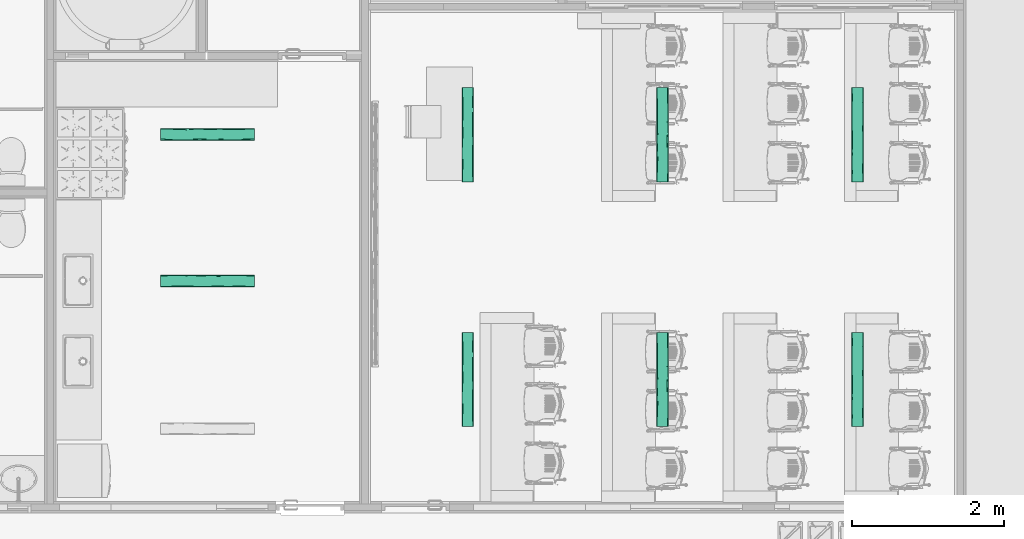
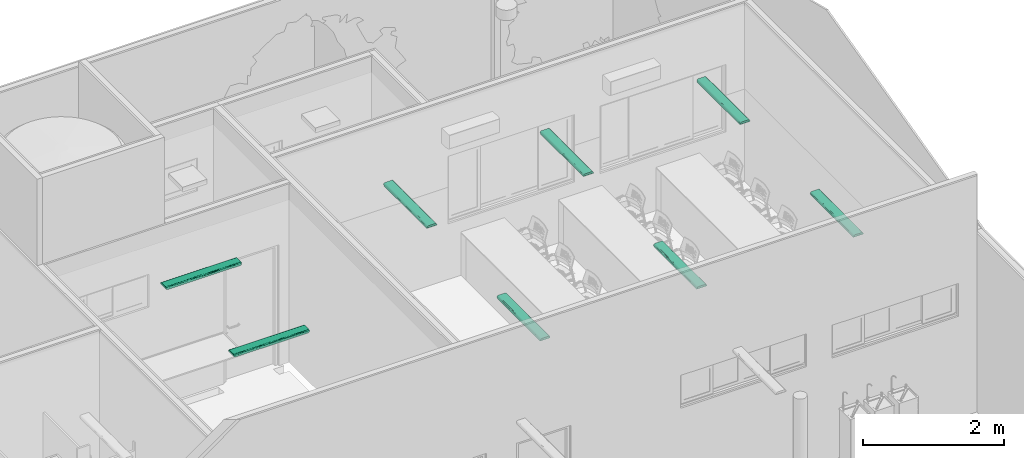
# One storey, part 64 of 155: 8 flow terminals.
"""IFC2X3 building model written with IfcOpenShell, lengths in metres."""

from ifc_helpers import new_model, entity, si_unit, converted_unit, derived_unit, direction, frame, origin, place, context, subcontext, project, spatial, faceted_brep, source, transform, mapped, material, material_list, type_object, type_shapes, element, save


model = new_model("IFC2X3")

# Units and contexts
model_context = context("Model", 3, precision=1e-05, world=origin(), true_north=direction((6.12303176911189e-17, 1.0)))
body_context = subcontext(model_context, "Body", "Model", "MODEL_VIEW")
ifc_project = project(units=[si_unit("LENGTHUNIT", "METRE"), si_unit("AREAUNIT", "SQUARE_METRE"), si_unit("VOLUMEUNIT", "CUBIC_METRE"), converted_unit("PLANEANGLEUNIT", "DEGREE", entity("IfcRatioMeasure", 0.0174532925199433), si_unit("PLANEANGLEUNIT", "RADIAN"), dimensions=[0, 0, 0, 0, 0, 0, 0]), si_unit("MASSUNIT", "GRAM", prefix="KILO"), derived_unit("MASSDENSITYUNIT", [(si_unit("MASSUNIT", "GRAM", prefix="KILO"), 1), (si_unit("LENGTHUNIT", "METRE"), -3)]), si_unit("TIMEUNIT", "SECOND"), si_unit("FREQUENCYUNIT", "HERTZ"), si_unit("THERMODYNAMICTEMPERATUREUNIT", "DEGREE_CELSIUS"), derived_unit("THERMALTRANSMITTANCEUNIT", [(si_unit("MASSUNIT", "GRAM", prefix="KILO"), 1), (si_unit("THERMODYNAMICTEMPERATUREUNIT", "KELVIN"), -1), (si_unit("TIMEUNIT", "SECOND"), -3)]), derived_unit("VOLUMETRICFLOWRATEUNIT", [(si_unit("LENGTHUNIT", "METRE"), 3), (si_unit("TIMEUNIT", "SECOND"), -1)]), si_unit("ELECTRICCURRENTUNIT", "AMPERE"), si_unit("ELECTRICVOLTAGEUNIT", "VOLT"), si_unit("POWERUNIT", "WATT"), si_unit("FORCEUNIT", "NEWTON", prefix="KILO"), si_unit("ILLUMINANCEUNIT", "LUX"), si_unit("LUMINOUSFLUXUNIT", "LUMEN"), si_unit("LUMINOUSINTENSITYUNIT", "CANDELA"), derived_unit("USERDEFINED", [(si_unit("MASSUNIT", "GRAM", prefix="KILO"), -1), (si_unit("LENGTHUNIT", "METRE"), -2), (si_unit("TIMEUNIT", "SECOND"), 3), (si_unit("LUMINOUSFLUXUNIT", "LUMEN"), 1)]), derived_unit("LINEARVELOCITYUNIT", [(si_unit("LENGTHUNIT", "METRE"), 1), (si_unit("TIMEUNIT", "SECOND"), -1)]), si_unit("PRESSUREUNIT", "PASCAL"), derived_unit("USERDEFINED", [(si_unit("LENGTHUNIT", "METRE"), -2), (si_unit("MASSUNIT", "GRAM", prefix="KILO"), 1), (si_unit("TIMEUNIT", "SECOND"), -2)])], contexts=[model_context])

# Site, building, storey, space
site_placement = place(None, frame((26.9889013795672, -17.5624287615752, 0.0)))
site = spatial("IfcSite", under=ifc_project, at=site_placement, Name="Default", CompositionType="ELEMENT")
building_placement = place(site_placement, origin())
building = spatial("IfcBuilding", under=site, at=building_placement, Name="C. C. L. Monsenhor Antônio Sampaio", CompositionType="ELEMENT")
storey_placement = place(building_placement, frame((0.0, 0.0, 1.19999999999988)))
storey = spatial("IfcBuildingStorey", under=building, at=storey_placement, Name="Nível 1.2", CompositionType="ELEMENT", Elevation=1.19999999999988)
space_1_placement = place(storey_placement, origin())
space_1 = spatial("IfcSpace", under=storey, at=space_1_placement, Name="89", CompositionType="ELEMENT", InteriorOrExteriorSpace="INTERNAL")

# Flow terminals
ifc_material_1 = material(Name="glass - blue - t85")
ifc_material_2 = material(Name="metal - aluminium")
ifc_material_list_1 = material_list([ifc_material_1, ifc_material_2])
ifc_material_list_2 = material_list([ifc_material_1, ifc_material_2])
light_fixture_type = type_object("IfcLightFixtureType", Name="BCS460 W16L124 1xLED24/840 MLO-PC", PredefinedType="NOTDEFINED", material=ifc_material_list_2)
shared_shape = source(origin(), body_context, "Body", "Brep", [
    faceted_brep([(0.585000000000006, 0.0435000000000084, -0.0460000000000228), (0.585000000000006, -0.0434999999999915, -0.0460000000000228), (0.585000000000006, -0.0434999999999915, -0.0490000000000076), (0.585000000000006, 0.0435000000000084, -0.0490000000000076), (-0.584999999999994, 0.0435000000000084, -0.0460000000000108), (-0.584999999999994, 0.0435000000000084, -0.0489999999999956), (-0.584999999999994, -0.0434999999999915, -0.0489999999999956), (-0.584999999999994, -0.0434999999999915, -0.0460000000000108)], [[[0, 1, 2, 3]], [[4, 5, 6, 7]], [[3, 5, 4, 0]], [[2, 6, 5, 3]], [[1, 7, 6, 2]], [[0, 4, 7, 1]]]),
    faceted_brep([(-0.584999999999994, -0.0434999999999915, -0.0489999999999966), (0.585000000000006, -0.0434999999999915, -0.0490000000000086), (0.585000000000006, -0.0554999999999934, -0.0490000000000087), (0.417543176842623, -0.0554999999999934, -0.0490000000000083), (0.334912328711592, -0.0554999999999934, -0.0490000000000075), (0.209867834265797, -0.0554999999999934, -0.0490000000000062), (0.0848246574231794, -0.0554999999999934, -0.0490000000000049), (-0.0826321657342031, -0.0554999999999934, -0.0490000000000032), (-0.250087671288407, -0.0554999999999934, -0.0490000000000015), (-0.417543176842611, -0.0554999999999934, -0.0489999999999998), (-0.584999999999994, -0.0554999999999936, -0.0489999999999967), (-0.584999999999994, 0.0435000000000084, -0.0489999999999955), (-0.584999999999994, 0.0555000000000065, -0.0489999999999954), (-0.417543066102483, 0.0555000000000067, -0.0489999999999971), (-0.334913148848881, 0.0555000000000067, -0.048999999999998), (-0.209868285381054, 0.0555000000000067, -0.0489999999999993), (-0.0848248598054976, 0.0555000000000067, -0.0490000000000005), (0.0826306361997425, 0.0555000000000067, -0.0490000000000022), (0.250087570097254, 0.0555000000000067, -0.049000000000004), (0.417544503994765, 0.0555000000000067, -0.0490000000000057), (0.585000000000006, 0.0555000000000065, -0.0490000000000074), (0.585000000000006, 0.0435000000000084, -0.0490000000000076), (0.585000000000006, -0.0434999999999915, -0.0190000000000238), (0.585000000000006, 0.0435000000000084, -0.0190000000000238), (0.585000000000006, 0.0614528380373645, -0.0482162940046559), (0.585000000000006, 0.0670000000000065, -0.0459185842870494), (0.585000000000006, 0.0717634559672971, -0.0422634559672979), (0.585000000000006, 0.0754185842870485, -0.0375000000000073), (0.585000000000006, 0.077716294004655, -0.0319528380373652), (0.585000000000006, 0.0785000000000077, -0.0260000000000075), (0.585000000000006, 0.0785000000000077, 0.0), (0.585000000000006, -0.0784999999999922, 0.0), (0.585000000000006, -0.0784999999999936, -0.02600000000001), (0.585000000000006, -0.0777162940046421, -0.031952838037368), (0.585000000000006, -0.0754185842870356, -0.03750000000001), (0.585000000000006, -0.0717634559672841, -0.0422634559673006), (0.585000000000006, -0.0669999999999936, -0.0459185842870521), (0.585000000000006, -0.0614528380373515, -0.0482162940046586), (-0.584999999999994, 0.0435000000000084, -0.0190000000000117), (-0.584999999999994, -0.0434999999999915, -0.0190000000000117), (-0.584999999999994, -0.0614528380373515, -0.0482162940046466), (-0.584999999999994, -0.0669999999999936, -0.0459185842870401), (-0.584999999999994, -0.0717634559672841, -0.0422634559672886), (-0.584999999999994, -0.0754185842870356, -0.037499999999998), (-0.584999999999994, -0.0777162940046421, -0.031952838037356), (-0.584999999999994, -0.0784999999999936, -0.025999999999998), (-0.584999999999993, -0.0784999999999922, 0.0), (-0.584999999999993, 0.0785000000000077, 0.0), (-0.584999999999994, 0.0785000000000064, -0.0259999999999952), (-0.584999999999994, 0.077716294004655, -0.0319528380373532), (-0.584999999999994, 0.0754185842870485, -0.0374999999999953), (-0.584999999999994, 0.0717634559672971, -0.0422634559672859), (-0.584999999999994, 0.0670000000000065, -0.0459185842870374), (-0.584999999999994, 0.0614528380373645, -0.0482162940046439), (0.417543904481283, 0.0785000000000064, -0.0260000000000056), (0.334912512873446, 0.0785000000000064, -0.0260000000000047), (0.209868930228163, 0.0785000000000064, -0.0260000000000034), (0.0848250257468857, 0.0785000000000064, -0.0260000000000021), (-0.0826310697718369, 0.0785000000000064, -0.0260000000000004), (-0.250087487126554, 0.0785000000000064, -0.0259999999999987), (-0.417543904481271, 0.0785000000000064, -0.025999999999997), (-0.430283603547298, 0.073747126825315, -0.0400015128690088), (-0.39346878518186, 0.069501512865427, -0.0442471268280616), (-0.441987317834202, 0.0643017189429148, -0.0472492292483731), (-0.435801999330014, 0.0759760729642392, -0.0364752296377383), (0.43028360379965, 0.0695015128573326, -0.0442471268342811), (0.393468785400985, 0.0737471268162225, -0.0400015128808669), (-0.166359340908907, 0.0777768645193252, -0.0317220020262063), (-0.333815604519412, 0.078144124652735, -0.0300303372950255), (0.441987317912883, 0.0767492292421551, -0.0348017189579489), (0.376228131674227, 0.0780233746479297, -0.0306580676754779), (-0.0103058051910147, 0.0779837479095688, -0.0308457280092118), (0.147346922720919, 0.0778835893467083, -0.0312891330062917), (0.0846877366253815, 0.0752228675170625, -0.0378325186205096), (0.113930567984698, 0.0669406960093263, -0.0459527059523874), (0.259392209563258, 0.0628104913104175, -0.0478072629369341), (0.138751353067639, 0.0626656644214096, -0.0478552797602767), (-0.327642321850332, 0.0767492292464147, -0.0348017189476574), (-0.44845841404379, 0.0775260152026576, -0.0326222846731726), (0.274715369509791, 0.0767492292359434, -0.0348017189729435), (0.37104983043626, 0.0643017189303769, -0.0472492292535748), (0.333815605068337, 0.0596187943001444, -0.0486282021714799), (0.0893720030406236, 0.0707479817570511, -0.0432191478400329), (-0.0153938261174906, 0.0683034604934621, -0.0451068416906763), (-0.376228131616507, 0.0601580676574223, -0.0485233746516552), (0.0434325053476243, 0.059742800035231, -0.048605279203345), (0.218757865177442, 0.0695015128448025, -0.0442471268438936), (0.464656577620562, 0.0597129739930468, -0.0486108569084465), (0.199843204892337, 0.0732493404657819, -0.0406274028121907), (-0.274715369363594, 0.0643017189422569, -0.0472492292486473), (-0.115235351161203, 0.073747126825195, -0.0400015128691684), (-0.150791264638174, 0.070206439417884, -0.0436839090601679), (-0.272759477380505, 0.0724713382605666, -0.0415233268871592), (-0.00814072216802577, 0.0636892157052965, -0.0474927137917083), (-0.14734692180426, 0.0607891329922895, -0.0483835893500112), (-0.269938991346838, 0.0692956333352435, -0.0444032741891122), (-0.201904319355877, 0.0758204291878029, -0.0367740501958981), (-0.0663340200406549, 0.0763921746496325, -0.0356185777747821), (-0.139314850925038, 0.066006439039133, -0.046460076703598), (-0.430283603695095, -0.0695015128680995, -0.0442471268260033), (-0.393468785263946, -0.073747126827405, -0.0400015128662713), (-0.44198731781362, -0.0767492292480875, -0.0348017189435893), (-0.435801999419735, -0.06597522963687, -0.0464760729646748), (0.430283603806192, -0.0737471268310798, -0.0400015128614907), (0.393468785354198, -0.0695015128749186, -0.0442471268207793), (-0.166359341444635, -0.061222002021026, -0.0482768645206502), (-0.333815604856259, -0.0595303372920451, -0.0486441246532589), (0.441987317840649, -0.0643017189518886, -0.0472492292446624), (0.37622813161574, -0.0601580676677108, -0.0485233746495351), (-0.0103058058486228, -0.0603457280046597, -0.0484837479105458), (0.147346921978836, -0.0607891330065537, -0.0483835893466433), (0.0846877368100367, -0.0673325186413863, -0.0457228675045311), (0.113930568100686, -0.0754527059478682, -0.0374406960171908), (0.259392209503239, -0.0773072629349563, -0.0333104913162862), (0.138751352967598, -0.0773552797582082, -0.0331656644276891), (-0.327642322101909, -0.0643017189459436, -0.047249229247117), (-0.448458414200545, -0.062122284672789, -0.048026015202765), (-0.417543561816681, -0.0784999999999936, -0.0259999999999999), (0.274715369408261, -0.0643017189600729, -0.0472492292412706), (0.371049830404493, -0.0767492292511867, -0.0348017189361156), (0.333815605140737, -0.0781282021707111, -0.0301187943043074), (0.250087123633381, -0.0784999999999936, -0.0260000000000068), (0.0893720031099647, -0.0727191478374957, -0.041247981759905), (-0.0153938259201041, -0.074606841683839, -0.0388034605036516), (-0.376228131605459, -0.0780233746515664, -0.0306580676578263), (0.0826306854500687, -0.0784999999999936, -0.026000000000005), (-0.0848257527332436, -0.0784999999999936, -0.0260000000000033), (0.0434325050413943, -0.0781052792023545, -0.030242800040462), (0.417543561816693, -0.0784999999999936, -0.0260000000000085), (0.21875786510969, -0.0737471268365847, -0.0400015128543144), (0.464656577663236, -0.0781108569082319, -0.0302129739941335), (0.19984320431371, -0.0701274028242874, -0.0437493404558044), (-0.274715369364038, -0.0767492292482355, -0.0348017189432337), (-0.115235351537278, -0.0695015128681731, -0.0442471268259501), (-0.150791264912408, -0.0731839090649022, -0.0407064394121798), (-0.209869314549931, -0.0784999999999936, -0.026000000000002), (-0.334912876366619, -0.0784999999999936, -0.0260000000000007), (-0.272759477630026, -0.071023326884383, -0.0429713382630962), (-0.00814072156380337, -0.0769927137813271, -0.0341892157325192), (-0.147346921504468, -0.0778835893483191, -0.03128913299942), (-0.269938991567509, -0.0739032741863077, -0.0397956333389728), (-0.201904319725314, -0.0662740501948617, -0.0463204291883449), (-0.0663340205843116, -0.0651185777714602, -0.0468921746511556), (-0.139314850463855, -0.0759600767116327, -0.0365064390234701)], [[[0, 1, 2, 3, 4, 5, 6, 7, 8, 9, 10]], [[11, 12, 13, 14, 15, 16, 17, 18, 19, 20, 21]], [[22, 23, 21, 20, 24, 25, 26, 27, 28, 29, 30, 31, 32, 33, 34, 35, 36, 37, 2, 1]], [[12, 11, 38, 39, 0, 10, 40, 41, 42, 43, 44, 45, 46, 47, 48, 49, 50, 51, 52, 53]], [[47, 30, 29, 54, 55, 56, 57, 58, 59, 60, 48]], [[61, 51, 50]], [[62, 51, 61]], [[51, 62, 52]], [[62, 63, 52]], [[63, 53, 52]], [[61, 50, 64]], [[26, 65, 66]], [[26, 25, 65]], [[54, 29, 28]], [[67, 68, 59]], [[69, 70, 28]], [[71, 72, 73]], [[74, 75, 76]], [[26, 66, 27]], [[77, 78, 68]], [[13, 12, 53]], [[69, 27, 66]], [[79, 73, 72]], [[24, 80, 25]], [[70, 79, 72]], [[69, 28, 27]], [[75, 81, 18]], [[82, 74, 83]], [[63, 84, 53]], [[17, 16, 85]], [[19, 18, 81]], [[75, 74, 86]], [[87, 81, 80]], [[73, 79, 88]], [[70, 56, 55, 54]], [[80, 86, 65]], [[89, 63, 62]], [[90, 83, 91]], [[84, 15, 14, 13]], [[61, 77, 92]], [[59, 68, 60]], [[78, 49, 48]], [[20, 87, 24]], [[93, 76, 85]], [[66, 65, 86]], [[65, 25, 80]], [[62, 61, 92]], [[77, 64, 78]], [[92, 90, 91]], [[89, 94, 84]], [[28, 70, 54]], [[79, 69, 66]], [[53, 84, 13]], [[91, 95, 92]], [[96, 90, 92]], [[56, 72, 57]], [[70, 69, 79]], [[70, 72, 56]], [[67, 59, 58]], [[71, 67, 58]], [[71, 58, 57]], [[83, 90, 82]], [[88, 82, 73]], [[96, 97, 90]], [[71, 73, 97]], [[15, 94, 16]], [[84, 63, 89]], [[84, 94, 15]], [[98, 83, 93]], [[83, 98, 91]], [[18, 17, 76]], [[62, 92, 95]], [[98, 95, 91]], [[98, 94, 89]], [[74, 76, 93]], [[93, 94, 98]], [[85, 16, 94]], [[19, 81, 87]], [[80, 81, 75]], [[19, 87, 20]], [[24, 87, 80]], [[78, 48, 60]], [[77, 68, 67]], [[68, 78, 60]], [[49, 78, 50]], [[78, 64, 50]], [[64, 77, 61]], [[94, 93, 85]], [[85, 76, 17]], [[97, 67, 71]], [[72, 71, 57]], [[77, 67, 96]], [[90, 97, 73]], [[97, 96, 67]], [[77, 96, 92]], [[80, 75, 86]], [[76, 75, 18]], [[95, 89, 62]], [[89, 95, 98]], [[86, 74, 82]], [[83, 74, 93]], [[86, 82, 88]], [[73, 82, 90]], [[88, 66, 86]], [[66, 88, 79]], [[99, 42, 41]], [[100, 42, 99]], [[42, 100, 43]], [[100, 101, 43]], [[101, 44, 43]], [[99, 41, 102]], [[35, 103, 104]], [[35, 34, 103]], [[3, 2, 37]], [[105, 106, 8]], [[107, 108, 37]], [[109, 110, 111]], [[112, 113, 114]], [[35, 104, 36]], [[115, 116, 106]], [[117, 45, 44]], [[107, 36, 104]], [[118, 111, 110]], [[33, 119, 34]], [[108, 118, 110]], [[107, 37, 36]], [[113, 120, 121]], [[122, 112, 123]], [[101, 124, 44]], [[125, 126, 127]], [[128, 121, 120]], [[113, 112, 129]], [[130, 120, 119]], [[111, 118, 131]], [[108, 5, 4, 3]], [[119, 129, 103]], [[132, 101, 100]], [[133, 123, 134]], [[124, 135, 136, 117]], [[99, 115, 137]], [[8, 106, 9]], [[116, 40, 10]], [[32, 130, 33]], [[138, 114, 127]], [[104, 103, 129]], [[103, 34, 119]], [[100, 99, 137]], [[115, 102, 116]], [[137, 133, 134]], [[132, 139, 124]], [[37, 108, 3]], [[118, 107, 104]], [[44, 124, 117]], [[134, 140, 137]], [[141, 133, 137]], [[5, 110, 6]], [[108, 107, 118]], [[108, 110, 5]], [[105, 8, 7]], [[109, 105, 7]], [[109, 7, 6]], [[123, 133, 122]], [[131, 122, 111]], [[141, 142, 133]], [[109, 111, 142]], [[135, 139, 126]], [[124, 101, 132]], [[124, 139, 135]], [[143, 123, 138]], [[123, 143, 134]], [[121, 125, 114]], [[100, 137, 140]], [[143, 140, 134]], [[143, 139, 132]], [[112, 114, 138]], [[138, 139, 143]], [[127, 126, 139]], [[128, 120, 130]], [[119, 120, 113]], [[128, 130, 32]], [[33, 130, 119]], [[116, 10, 9]], [[115, 106, 105]], [[106, 116, 9]], [[40, 116, 41]], [[116, 102, 41]], [[102, 115, 99]], [[139, 138, 127]], [[127, 114, 125]], [[142, 105, 109]], [[110, 109, 6]], [[115, 105, 141]], [[133, 142, 111]], [[142, 141, 105]], [[115, 141, 137]], [[119, 113, 129]], [[114, 113, 121]], [[140, 132, 100]], [[132, 140, 143]], [[129, 112, 122]], [[123, 112, 138]], [[129, 122, 131]], [[111, 122, 133]], [[131, 104, 129]], [[104, 131, 118]], [[31, 46, 45, 117, 136, 135, 126, 125, 121, 128, 32]], [[46, 31, 30, 47]], [[21, 23, 38, 11]], [[22, 1, 0, 39]], [[23, 22, 39, 38]]]),
    faceted_brep([(0.597000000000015, 0.0785000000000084, 0.0), (0.602952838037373, 0.0785000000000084, -0.000783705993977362), (0.608500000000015, 0.0785000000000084, -0.00308141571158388), (0.613263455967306, 0.0785000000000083, -0.00673654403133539), (0.616918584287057, 0.0785000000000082, -0.011499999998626), (0.619216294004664, 0.0785000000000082, -0.017047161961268), (0.620000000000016, 0.0785000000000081, -0.0229999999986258), (0.620000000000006, 0.0785000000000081, -0.0259999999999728), (0.585000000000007, 0.0785000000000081, -0.0259999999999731), (0.585000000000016, 0.0785000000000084, 0.0), (0.619216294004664, -0.0784999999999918, -0.0170471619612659), (0.616918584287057, -0.0784999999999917, -0.0114999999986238), (0.613263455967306, -0.0784999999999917, -0.00673654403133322), (0.608500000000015, -0.0784999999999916, -0.00308141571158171), (0.602952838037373, -0.0784999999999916, -0.000783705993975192), (0.597000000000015, -0.0784999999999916, 0.0), (0.585000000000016, -0.0784999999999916, 0.0), (0.585000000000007, -0.0784999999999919, -0.0260000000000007), (0.620000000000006, -0.0784999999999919, -0.0260000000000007), (0.620000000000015, -0.0784999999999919, -0.0229999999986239), (0.620000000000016, 0.0669999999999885, -0.0459185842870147), (0.620000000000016, 0.0717634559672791, -0.0422634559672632), (0.620000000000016, 0.0754185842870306, -0.0374999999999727), (0.620000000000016, 0.0777162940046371, -0.0319528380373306), (0.620000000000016, -0.0777162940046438, -0.0319528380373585), (0.620000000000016, -0.0754185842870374, -0.0375000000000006), (0.620000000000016, -0.071763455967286, -0.0422634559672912), (0.620000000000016, -0.0669999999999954, -0.0459185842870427), (0.620000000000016, -0.0614528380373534, -0.0482162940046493), (0.620000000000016, -0.0554999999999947, -0.0489999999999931), (0.620000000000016, 0.0554999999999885, -0.0489999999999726), (0.620000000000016, 0.0614528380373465, -0.0482162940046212), (0.585000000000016, 0.0554999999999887, -0.048999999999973), (0.585000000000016, -0.0554999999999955, -0.0490000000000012), (0.585000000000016, -0.0614528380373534, -0.0482162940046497), (0.585000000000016, -0.0669999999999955, -0.0459185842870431), (0.585000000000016, -0.071763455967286, -0.0422634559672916), (0.585000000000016, -0.0754185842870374, -0.0375000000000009), (0.585000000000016, -0.0777162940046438, -0.0319528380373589), (0.585000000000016, 0.0777162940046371, -0.031952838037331), (0.585000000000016, 0.0754185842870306, -0.037499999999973), (0.585000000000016, 0.0717634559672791, -0.0422634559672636), (0.585000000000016, 0.0669999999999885, -0.0459185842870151), (0.585000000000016, 0.0614528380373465, -0.0482162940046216)], [[[0, 1, 2, 3, 4, 5, 6, 7, 8, 9]], [[10, 11, 12, 13, 14, 15, 16, 17, 18, 19]], [[20, 21, 22, 23, 7, 6, 19, 18, 24, 25, 26, 27, 28, 29, 30, 31]], [[32, 33, 34, 35, 36, 37, 38, 17, 16, 9, 8, 39, 40, 41, 42, 43]], [[16, 15, 0, 9]], [[11, 10, 5, 4]], [[12, 11, 4, 3]], [[6, 5, 10, 19]], [[14, 13, 2, 1]], [[15, 14, 1, 0]], [[2, 13, 12, 3]], [[43, 31, 30, 32]], [[43, 42, 20, 31]], [[21, 20, 42, 41]], [[23, 22, 40, 39]], [[7, 23, 39, 8]], [[40, 22, 21, 41]], [[29, 33, 32, 30]], [[25, 24, 38, 37]], [[26, 25, 37, 36]], [[17, 38, 24, 18]], [[28, 27, 35, 34]], [[29, 28, 34, 33]], [[35, 27, 26, 36]]]),
    faceted_brep([(-0.608499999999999, 0.0785000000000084, -0.00308141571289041), (-0.602952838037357, 0.0785000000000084, -0.000783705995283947), (-0.597, 0.0785000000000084, 0.0), (-0.584999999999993, 0.0785000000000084, 0.0), (-0.584999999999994, 0.0785000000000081, -0.0260000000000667), (-0.619999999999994, 0.0785000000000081, -0.0260000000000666), (-0.619999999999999, 0.0785000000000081, -0.0229999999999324), (-0.619216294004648, 0.0785000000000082, -0.0170471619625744), (-0.616918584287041, 0.0785000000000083, -0.0114999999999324), (-0.61326345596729, 0.0785000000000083, -0.00673654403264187), (-0.584999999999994, -0.0784999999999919, -0.0260000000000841), (-0.584999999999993, -0.0784999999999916, 0.0), (-0.596999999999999, -0.0784999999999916, 0.0), (-0.602952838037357, -0.0784999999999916, -0.000783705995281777), (-0.608499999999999, -0.0784999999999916, -0.00308141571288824), (-0.61326345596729, -0.0784999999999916, -0.0067365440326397), (-0.616918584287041, -0.0784999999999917, -0.0114999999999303), (-0.619216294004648, -0.0784999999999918, -0.0170471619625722), (-0.619999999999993, -0.0784999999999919, -0.0229999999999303), (-0.619999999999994, -0.0784999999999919, -0.0260000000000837), (-0.619999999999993, 0.0777162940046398, -0.0319528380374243), (-0.619999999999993, 0.0754185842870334, -0.0375000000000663), (-0.619999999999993, 0.071763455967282, -0.042263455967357), (-0.619999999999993, 0.0669999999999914, -0.0459185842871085), (-0.619999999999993, 0.0614528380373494, -0.048216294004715), (-0.619999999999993, 0.0554999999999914, -0.0490000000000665), (-0.619999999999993, -0.0554999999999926, -0.0490000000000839), (-0.619999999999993, -0.0614528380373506, -0.0482162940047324), (-0.619999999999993, -0.0669999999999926, -0.0459185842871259), (-0.619999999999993, -0.0717634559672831, -0.0422634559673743), (-0.619999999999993, -0.0754185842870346, -0.0375000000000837), (-0.619999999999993, -0.0777162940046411, -0.0319528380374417), (-0.584999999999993, 0.0614528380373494, -0.0482162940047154), (-0.584999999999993, 0.0669999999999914, -0.0459185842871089), (-0.584999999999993, 0.071763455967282, -0.0422634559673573), (-0.584999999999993, 0.0754185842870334, -0.0375000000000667), (-0.584999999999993, 0.0777162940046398, -0.0319528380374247), (-0.584999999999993, -0.0777162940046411, -0.0319528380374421), (-0.584999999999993, -0.0754185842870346, -0.0375000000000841), (-0.584999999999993, -0.0717634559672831, -0.0422634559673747), (-0.584999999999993, -0.0669999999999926, -0.0459185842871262), (-0.584999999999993, -0.0614528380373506, -0.0482162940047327), (-0.584999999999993, -0.0554999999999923, -0.0490000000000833), (-0.584999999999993, 0.0554999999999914, -0.0490000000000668)], [[[0, 1, 2, 3, 4, 5, 6, 7, 8, 9]], [[10, 11, 12, 13, 14, 15, 16, 17, 18, 19]], [[5, 20, 21, 22, 23, 24, 25, 26, 27, 28, 29, 30, 31, 19, 18, 6]], [[32, 33, 34, 35, 36, 4, 3, 11, 10, 37, 38, 39, 40, 41, 42, 43]], [[12, 11, 3, 2]], [[14, 13, 1, 0]], [[15, 14, 0, 9]], [[2, 1, 13, 12]], [[17, 16, 8, 7]], [[18, 17, 7, 6]], [[8, 16, 15, 9]], [[22, 21, 35, 34]], [[36, 20, 5, 4]], [[21, 20, 36, 35]], [[24, 23, 33, 32]], [[25, 24, 32, 43]], [[33, 23, 22, 34]], [[26, 25, 43, 42]], [[28, 27, 41, 40]], [[29, 28, 40, 39]], [[42, 41, 27, 26]], [[31, 30, 38, 37]], [[19, 31, 37, 10]], [[38, 30, 29, 39]]]),
])
type_shapes(light_fixture_type, [shared_shape])
flow_terminal_1_placement = place(space_1_placement, frame((7.72961597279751, -11.9155663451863, 2.8), z_axis=(0.0, 0.0, -1.0), x_axis=(0.0, -1.0, 0.0)))
element("IfcFlowTerminal", 1, at=flow_terminal_1_placement, inside=space_1, type_object=light_fixture_type, material=ifc_material_list_1, Name="63_PHILIPS_smartform-LED-surface_f:BCS460 W16L124 1xLED24/840 MLO-PC", ObjectType="BCS460 W16L124 1xLED24/840 MLO-PC", context=body_context, shape_type="MappedRepresentation", body=[
    mapped(shared_shape, transform((0.0, 0.0, 0.0), scale=1.0)),
])
ifc_material_list_3 = material_list([ifc_material_1, ifc_material_2])
flow_terminal_2_placement = place(space_1_placement, frame((10.2994477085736, -11.9155663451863, 2.8), z_axis=(0.0, 0.0, -1.0), x_axis=(0.0, -1.0, 0.0)))
element("IfcFlowTerminal", 2, at=flow_terminal_2_placement, inside=space_1, type_object=light_fixture_type, material=ifc_material_list_3, Name="63_PHILIPS_smartform-LED-surface_f:BCS460 W16L124 1xLED24/840 MLO-PC", ObjectType="BCS460 W16L124 1xLED24/840 MLO-PC", context=body_context, shape_type="MappedRepresentation", body=[
    mapped(shared_shape, transform((0.0, 0.0, 0.0), scale=1.0)),
])
ifc_material_list_4 = material_list([ifc_material_1, ifc_material_2])
flow_terminal_3_placement = place(space_1_placement, frame((10.2994477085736, -15.1405663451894, 2.8), z_axis=(0.0, 0.0, -1.0), x_axis=(0.0, -1.0, 0.0)))
element("IfcFlowTerminal", 3, at=flow_terminal_3_placement, inside=space_1, type_object=light_fixture_type, material=ifc_material_list_4, Name="63_PHILIPS_smartform-LED-surface_f:BCS460 W16L124 1xLED24/840 MLO-PC", ObjectType="BCS460 W16L124 1xLED24/840 MLO-PC", context=body_context, shape_type="MappedRepresentation", body=[
    mapped(shared_shape, transform((0.0, 0.0, 0.0), scale=1.0)),
])
ifc_material_list_5 = material_list([ifc_material_1, ifc_material_2])
flow_terminal_4_placement = place(space_1_placement, frame((7.72961597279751, -15.1405663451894, 2.8), z_axis=(0.0, 0.0, -1.0), x_axis=(0.0, -1.0, 0.0)))
element("IfcFlowTerminal", 4, at=flow_terminal_4_placement, inside=space_1, type_object=light_fixture_type, material=ifc_material_list_5, Name="63_PHILIPS_smartform-LED-surface_f:BCS460 W16L124 1xLED24/840 MLO-PC", ObjectType="BCS460 W16L124 1xLED24/840 MLO-PC", context=body_context, shape_type="MappedRepresentation", body=[
    mapped(shared_shape, transform((0.0, 0.0, 0.0), scale=1.0)),
])
ifc_material_list_6 = material_list([ifc_material_1, ifc_material_2])
flow_terminal_5_placement = place(space_1_placement, frame((5.15961597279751, -11.9155663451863, 2.8), z_axis=(0.0, 0.0, -1.0), x_axis=(0.0, -1.0, 0.0)))
element("IfcFlowTerminal", 5, at=flow_terminal_5_placement, inside=space_1, type_object=light_fixture_type, material=ifc_material_list_6, Name="63_PHILIPS_smartform-LED-surface_f:BCS460 W16L124 1xLED24/840 MLO-PC", ObjectType="BCS460 W16L124 1xLED24/840 MLO-PC", context=body_context, shape_type="MappedRepresentation", body=[
    mapped(shared_shape, transform((0.0, 0.0, 0.0), scale=1.0)),
])
ifc_material_list_7 = material_list([ifc_material_1, ifc_material_2])
flow_terminal_6_placement = place(space_1_placement, frame((5.15961597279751, -15.1405663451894, 2.8), z_axis=(0.0, 0.0, -1.0), x_axis=(0.0, -1.0, 0.0)))
element("IfcFlowTerminal", 6, at=flow_terminal_6_placement, inside=space_1, type_object=light_fixture_type, material=ifc_material_list_7, Name="63_PHILIPS_smartform-LED-surface_f:BCS460 W16L124 1xLED24/840 MLO-PC", ObjectType="BCS460 W16L124 1xLED24/840 MLO-PC", context=body_context, shape_type="MappedRepresentation", body=[
    mapped(shared_shape, transform((0.0, 0.0, 0.0), scale=1.0)),
])

# Space
space_2_placement = place(storey_placement, origin())
space_2 = spatial("IfcSpace", under=storey, at=space_2_placement, Name="90", CompositionType="ELEMENT", InteriorOrExteriorSpace="INTERNAL")

# Flow terminals
ifc_material_list_8 = material_list([ifc_material_1, ifc_material_2])
flow_terminal_7_placement = place(space_2_placement, frame((1.72944770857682, -13.8430663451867, 2.8), z_axis=(0.0, 0.0, -1.0), x_axis=(-1.0, 0.0, 0.0)))
element("IfcFlowTerminal", 7, at=flow_terminal_7_placement, inside=space_2, type_object=light_fixture_type, material=ifc_material_list_8, Name="63_PHILIPS_smartform-LED-surface_f:BCS460 W16L124 1xLED24/840 MLO-PC", ObjectType="BCS460 W16L124 1xLED24/840 MLO-PC", context=body_context, shape_type="MappedRepresentation", body=[
    mapped(shared_shape, transform((0.0, 0.0, 0.0), scale=1.0)),
])
ifc_material_list_9 = material_list([ifc_material_1, ifc_material_2])
flow_terminal_8_placement = place(space_2_placement, frame((1.72944770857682, -11.9130663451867, 2.8), z_axis=(0.0, 0.0, -1.0), x_axis=(-1.0, 0.0, 0.0)))
element("IfcFlowTerminal", 8, at=flow_terminal_8_placement, inside=space_2, type_object=light_fixture_type, material=ifc_material_list_9, Name="63_PHILIPS_smartform-LED-surface_f:BCS460 W16L124 1xLED24/840 MLO-PC", ObjectType="BCS460 W16L124 1xLED24/840 MLO-PC", context=body_context, shape_type="MappedRepresentation", body=[
    mapped(shared_shape, transform((0.0, 0.0, 0.0), scale=1.0)),
])

save(model, "model.ifc")
